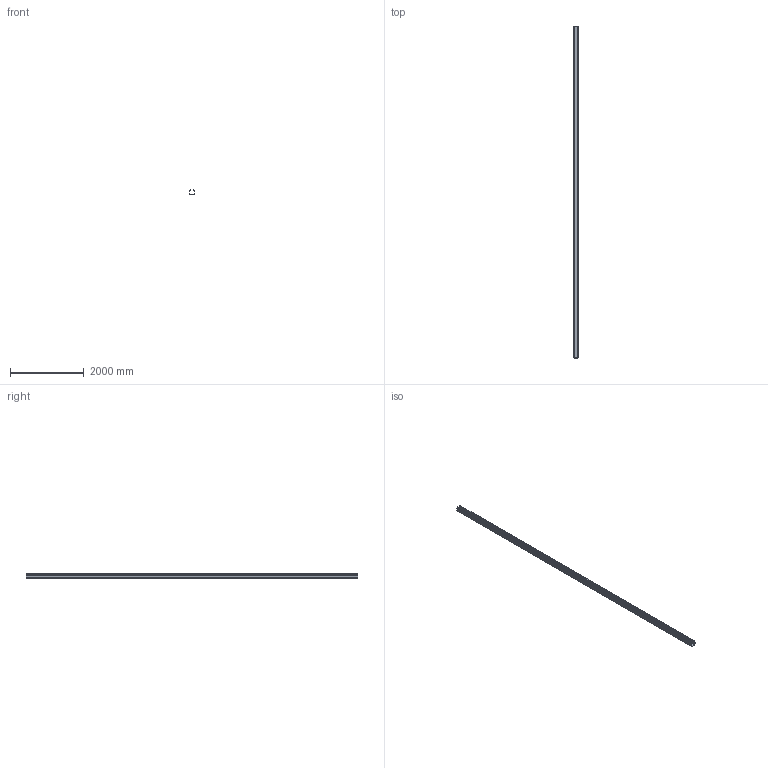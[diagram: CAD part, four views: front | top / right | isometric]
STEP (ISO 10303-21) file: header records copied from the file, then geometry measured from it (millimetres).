
FILE_DESCRIPTION(('STEP AP203'), '1');
FILE_NAME('ﾐﾋ014.05.00.900 ﾍ瑜粱 ﾌﾀﾊﾑ', '', ('UNSPECIFIED'), ('UNSPECIFIED'), 'ASCON STEP Converter 1.6', 'ASCON Math Kernel', '');
FILE_SCHEMA(('CONFIG_CONTROL_DESIGN'));
Length unit declared in the file: millimetre
Products named in the file (1): 倓014.05.00.900
Bounding box: 130 x 9000 x 135 mm (x, y, z)
Volume: 20114618.1 mm3; surface area: 8140317.1 mm2
Topology: 1 solids, 1 shells, 54 faces, 156 edges, 104 vertices
Faces by surface type: plane 30, cylinder 24
Entity records: 2264 total; most frequent: CARTESIAN_POINT 315, DIRECTION 314, ORIENTED_EDGE 312, EDGE_CURVE 156, LINE 108, VECTOR 108, VERTEX_POINT 104, AXIS2_PLACEMENT_3D 103
